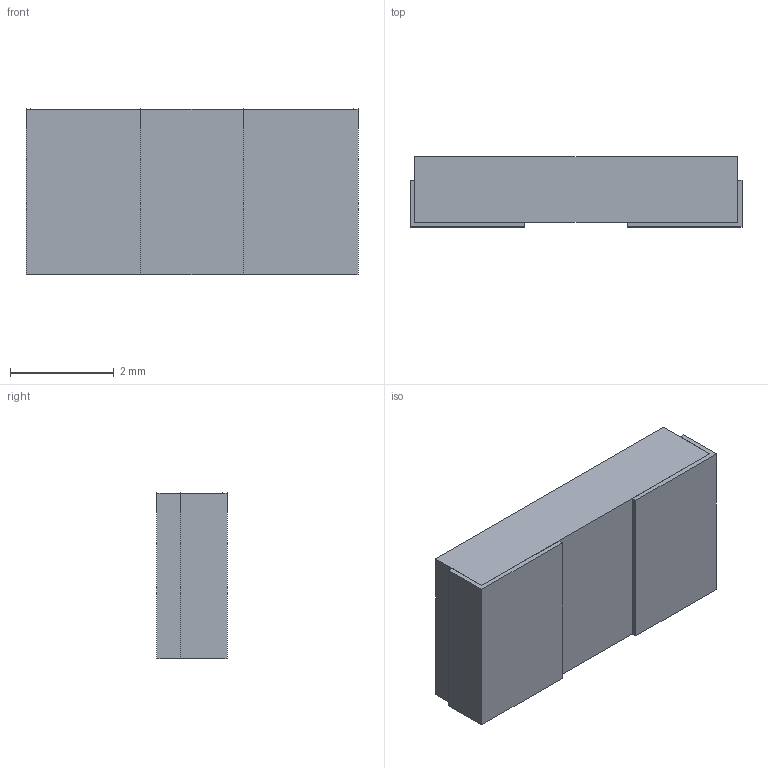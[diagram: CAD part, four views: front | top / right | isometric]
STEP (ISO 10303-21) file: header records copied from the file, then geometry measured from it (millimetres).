
FILE_DESCRIPTION (( 'STEP AP214' ), '1' );
FILE_NAME ('ERJ-MS4SF3M0U.STEP', '2019-12-26T09:07:00', ( '' ), ( '' ), 'SwSTEP 2.0', 'SolidWorks 2018', '' );
FILE_SCHEMA (( 'AUTOMOTIVE_DESIGN' ));
Length unit declared in the file: millimetre
Products named in the file (1): ERJ-MS4SF3M0U
Bounding box: 6.4 x 1.35 x 3.2 mm (x, y, z)
Volume: 26.8 mm3; surface area: 104.3 mm2
Topology: 3 solids, 3 shells, 22 faces, 48 edges, 32 vertices
Faces by surface type: plane 22
Entity records: 644 total; most frequent: CARTESIAN_POINT 103, ORIENTED_EDGE 96, DIRECTION 94, LINE 48, EDGE_CURVE 48, VECTOR 48, VERTEX_POINT 32, AXIS2_PLACEMENT_3D 23
